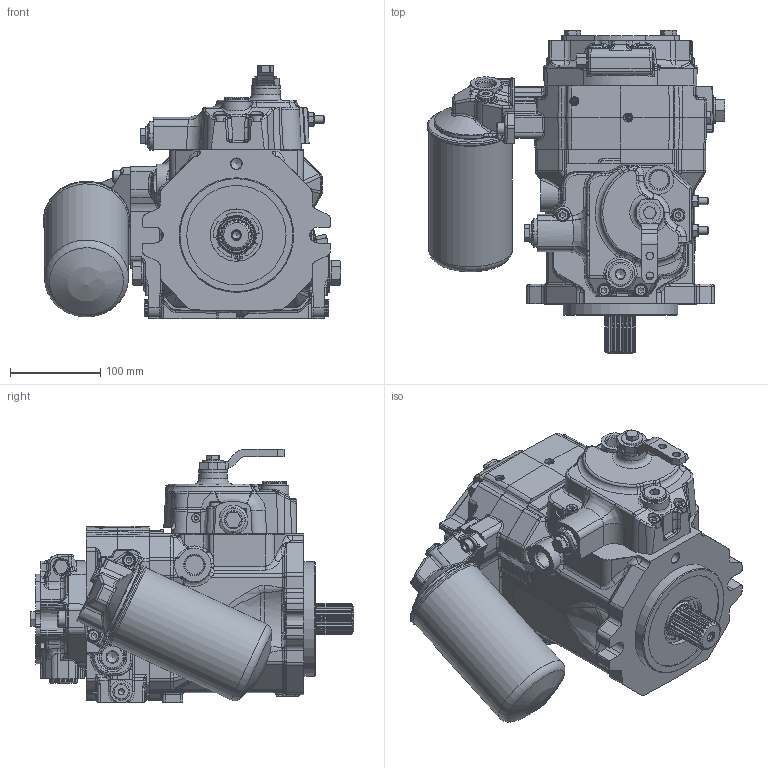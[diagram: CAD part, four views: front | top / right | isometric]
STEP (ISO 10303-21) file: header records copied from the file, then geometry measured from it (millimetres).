
FILE_DESCRIPTION(/* description */ (''),/* implementation_level */ '2;1');
FILE_NAME(/* name */ '2638055037m355.stp',/* time_stamp */ '2012-03-28T11:29:14+02:00',/* author */ (''),/* organization */ (''),/* preprocessor_version */ 'ST-DEVELOPER v11',/* originating_system */ 'SIEMENS PLM Software NX 7.5',/* authorisation */ '');
FILE_SCHEMA (('AUTOMOTIVE_DESIGN { 1 0 10303 214 1 1 1 1 }'));
Length unit declared in the file: millimetre
Products named in the file (1): 2638055037m355
Bounding box: 329.36 x 358.64 x 280.5 mm (x, y, z)
Volume: 10667195.2 mm3; surface area: 703103.5 mm2
Topology: 13 solids, 17 shells, 3781 faces, 9277 edges, 5604 vertices
Faces by surface type: plane 1204, cylinder 1093, bspline 618, cone 425, torus 177, extrusion 132, revolution 78, sphere 54
Full cylindrical faces by diameter (mm): 2.5 x2, 3 x1, 4 x2, 5 x7, 5.2 x3, 6 x7, 6.8 x2, 7 x1, 8 x14, 8.2 x4, 8.5 x4, 10 x24, 10.2 x14, 10.5 x1, 10.7 x2, 11 x10, 11.63 x1, 11.7 x2, 12 x9, 12.5 x3, 12.8 x2, 13 x7, 13.8 x1, 15 x5, 17 x6, 17.5 x1, 18 x9, 18.5 x1, 18.8 x6, 20 x11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
Entity records: 122431 total; most frequent: CARTESIAN_POINT 41468, ORIENTED_EDGE 16912, DIRECTION 15922, EDGE_CURVE 8456, AXIS2_PLACEMENT_3D 6325, VERTEX_POINT 5408, EDGE_LOOP 4444, ADVANCED_FACE 3781
